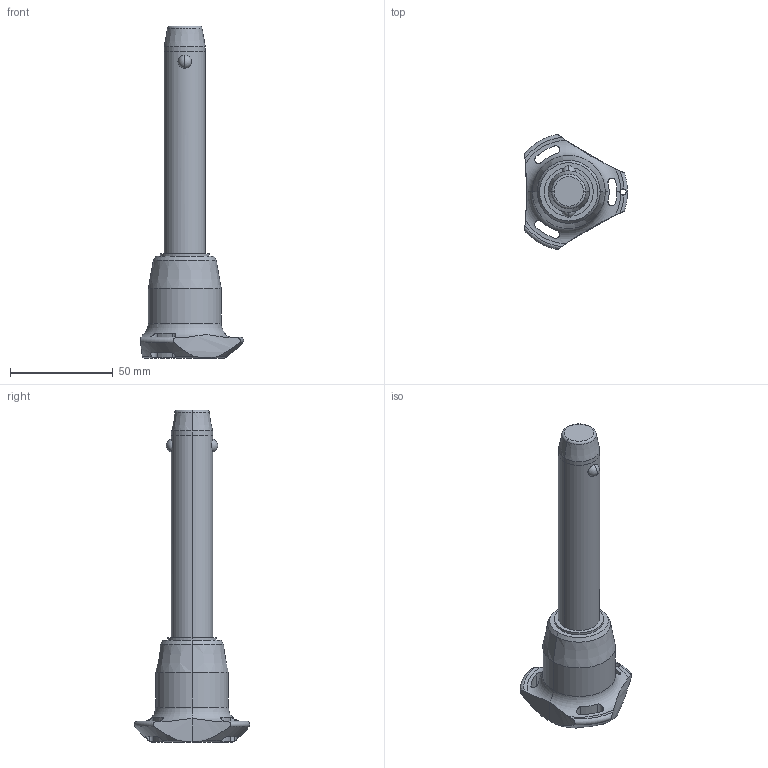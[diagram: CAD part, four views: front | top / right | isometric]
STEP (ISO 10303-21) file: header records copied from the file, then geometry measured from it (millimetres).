
FILE_DESCRIPTION (( 'STEP AP203' ), '1' );
FILE_NAME ('QR1726.M20-090-T.step', '2025-11-13T11:24:55', ( '' ), ( '' ), 'SwSTEP 2.0', 'SolidWorks 2019', '' );
FILE_SCHEMA (( 'CONFIG_CONTROL_DESIGN' ));
Length unit declared in the file: millimetre
Products named in the file (1): QR1726.M20-090-T
Bounding box: 50.04 x 56.02 x 161.2 mm (x, y, z)
Volume: 85455.2 mm3; surface area: 16731.6 mm2
Topology: 1 solids, 1 shells, 68 faces, 182 edges, 115 vertices
Faces by surface type: cylinder 32, cone 14, torus 11, sphere 6, plane 5
Entity records: 2938 total; most frequent: CARTESIAN_POINT 1192, ORIENTED_EDGE 364, DIRECTION 345, EDGE_CURVE 182, AXIS2_PLACEMENT_3D 154, VERTEX_POINT 115, CIRCLE 85, EDGE_LOOP 75
